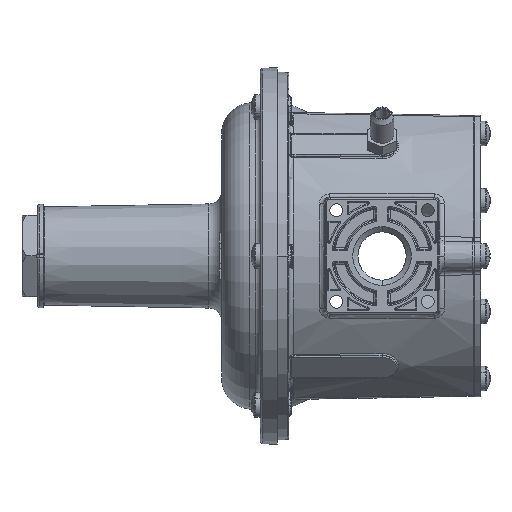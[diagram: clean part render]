
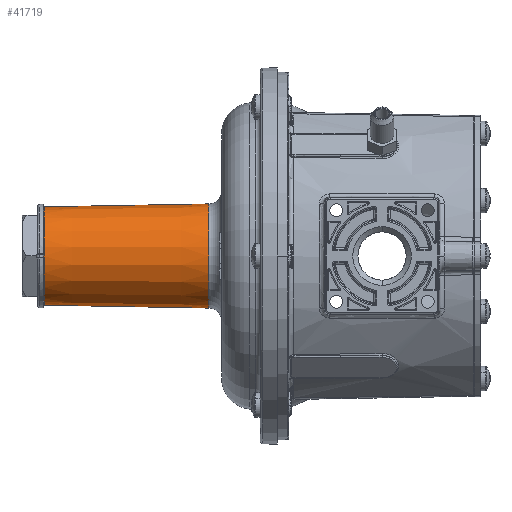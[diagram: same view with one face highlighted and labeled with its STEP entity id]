
A CAD part, left-side view. The second image highlights one B-rep face of the part: STEP entity #41719.
In plain terms, the highlighted conical face has half-angle 1 degrees and reference radius 19 mm.
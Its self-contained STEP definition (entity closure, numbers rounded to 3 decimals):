
#19 = CARTESIAN_POINT ( 'NONE',  ( 0., 98.913, -20.119 ) ) ;
#2190 = AXIS2_PLACEMENT_3D ( 'NONE', #3160, #3161, #3162 ) ;
#3108 = DIRECTION ( 'NONE',  ( 0., -1., 0.017 ) ) ;
#3111 = CARTESIAN_POINT ( 'NONE',  ( 0., 163., 19. ) ) ;
#3137 = CARTESIAN_POINT ( 'NONE',  ( 0., 163., -19. ) ) ;
#3145 = DIRECTION ( 'NONE',  ( 0., -1., -0.017 ) ) ;
#3160 = CARTESIAN_POINT ( 'NONE',  ( 0., 98.913, 0. ) ) ;
#3161 = DIRECTION ( 'NONE',  ( 0., 1., 0. ) ) ;
#3162 = DIRECTION ( 'NONE',  ( 0., 0., 1. ) ) ;
#19977 = FACE_OUTER_BOUND ( 'NONE', #39739, .T. ) ;
#19984 = CONICAL_SURFACE ( 'NONE', #21298, 19., 0.017 ) ;
#21298 = AXIS2_PLACEMENT_3D ( 'NONE', #22951, #22952, #22950 ) ;
#22950 = DIRECTION ( 'NONE',  ( 0., 0., -1. ) ) ;
#22951 = CARTESIAN_POINT ( 'NONE',  ( 0., 163., 0. ) ) ;
#22952 = DIRECTION ( 'NONE',  ( 0., -1., 0. ) ) ;
#23676 = VERTEX_POINT ( 'NONE', #19 ) ;
#29468 = AXIS2_PLACEMENT_3D ( 'NONE', #32788, #32789, #32790 ) ;
#31102 = CIRCLE ( 'NONE', #29468, 19.009 ) ;
#31579 = CARTESIAN_POINT ( 'NONE',  ( 0., 162.509, -19.009 ) ) ;
#31580 = CARTESIAN_POINT ( 'NONE',  ( 0., 162.509, 19.009 ) ) ;
#31605 = CARTESIAN_POINT ( 'NONE',  ( 0., 98.913, 20.119 ) ) ;
#32788 = CARTESIAN_POINT ( 'NONE',  ( 0., 162.509, 0. ) ) ;
#32789 = DIRECTION ( 'NONE',  ( 0., -1., 0. ) ) ;
#32790 = DIRECTION ( 'NONE',  ( 0., 0., -1. ) ) ;
#37126 = EDGE_CURVE ( 'NONE', #44692, #44741, #48699, .T. ) ;
#37134 = EDGE_CURVE ( 'NONE', #44690, #23676, #48709, .T. ) ;
#37137 = EDGE_CURVE ( 'NONE', #23676, #44741, #48714, .T. ) ;
#39739 = EDGE_LOOP ( 'NONE', ( #45048, #45054, #45056, #45062 ) ) ;
#41719 = ADVANCED_FACE ( 'NONE', ( #19977 ), #19984, .T. ) ;
#44690 = VERTEX_POINT ( 'NONE', #31579 ) ;
#44692 = VERTEX_POINT ( 'NONE', #31580 ) ;
#44741 = VERTEX_POINT ( 'NONE', #31605 ) ;
#45048 = ORIENTED_EDGE ( 'NONE', *, *, #37126, .F. ) ;
#45054 = ORIENTED_EDGE ( 'NONE', *, *, #45795, .T. ) ;
#45056 = ORIENTED_EDGE ( 'NONE', *, *, #37134, .T. ) ;
#45062 = ORIENTED_EDGE ( 'NONE', *, *, #37137, .T. ) ;
#45795 = EDGE_CURVE ( 'NONE', #44692, #44690, #31102, .T. ) ;
#48699 = LINE ( 'NONE', #3111, #48708 ) ;
#48708 = VECTOR ( 'NONE', #3108, 1000. ) ;
#48709 = LINE ( 'NONE', #3137, #48713 ) ;
#48713 = VECTOR ( 'NONE', #3145, 1000. ) ;
#48714 = CIRCLE ( 'NONE', #2190, 20.119 ) ;
